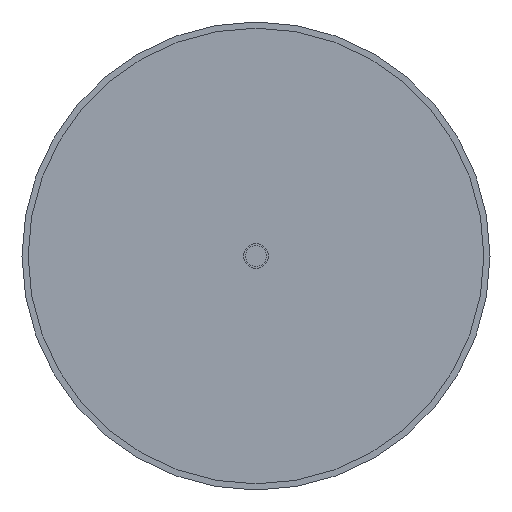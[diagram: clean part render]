
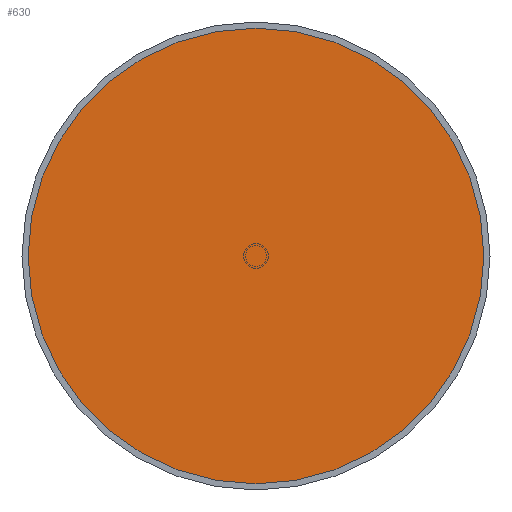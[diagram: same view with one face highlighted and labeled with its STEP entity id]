
A CAD part, front view. The second image highlights one B-rep face of the part: STEP entity #630.
In plain terms, the highlighted planar face has unit normal (0, -1, 0).
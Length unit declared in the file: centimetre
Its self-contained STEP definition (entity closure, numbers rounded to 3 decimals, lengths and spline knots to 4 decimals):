
#60=PLANE('',#715);
#148=FACE_OUTER_BOUND('',#230,.T.);
#230=EDGE_LOOP('',(#507));
#296=CIRCLE('',#714,18.5);
#353=VERTEX_POINT('',#1106);
#410=EDGE_CURVE('',#353,#353,#296,.T.);
#507=ORIENTED_EDGE('',*,*,#410,.T.);
#630=ADVANCED_FACE('',(#148),#60,.F.);
#714=AXIS2_PLACEMENT_3D('',#1107,#866,#867);
#715=AXIS2_PLACEMENT_3D('',#1108,#868,#869);
#866=DIRECTION('center_axis',(0.,-1.,0.));
#867=DIRECTION('ref_axis',(0.,0.,1.));
#868=DIRECTION('center_axis',(0.,1.,0.));
#869=DIRECTION('ref_axis',(-1.,0.,0.));
#1106=CARTESIAN_POINT('',(0.,-74.3,-18.5));
#1107=CARTESIAN_POINT('Origin',(0.,-74.3,0.));
#1108=CARTESIAN_POINT('Origin',(0.,-74.3,0.));
